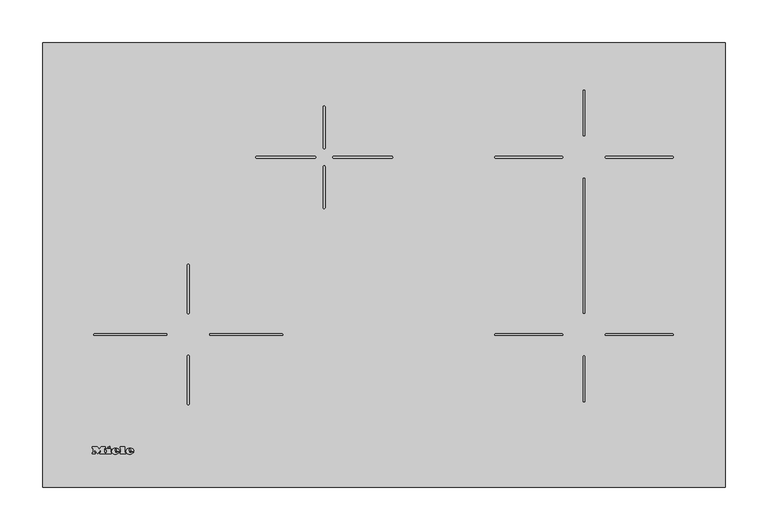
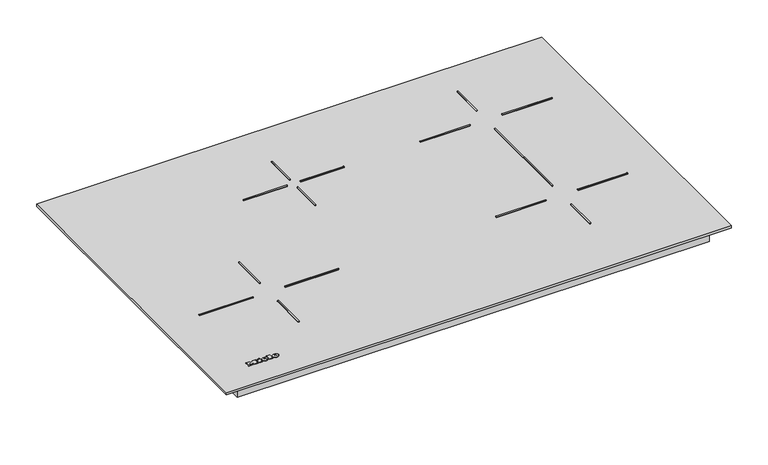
"""IFC4 building model written with IfcOpenShell, lengths in millimetres: proxy geometry, 12343070_D_KM7372FL : 26737270_D_12343070_KM7372FL."""

from ifc_helpers import new_model, si_unit, point, frame, frame_2d, origin, origin_with_axes, place, context, project, spatial, polyline, circle_curve, ellipse_curve, trimmed, segment, composite_curve, outline, extrude, source, transform, mapped, element, save
from ifc_brep_helpers import plane_surface, cylinder_surface, revolved_surface, extruded_surface, advanced_brep


def specialty_equipment_3d717bb7(model_context):
    return source(origin(), model_context, "Body", "SolidModel", [
        advanced_brep(
        [(-297.911984, 41.066, 5.0000007), (-297.911984, 41.874, 5.0000007), (-292.559984, 41.874, 5.0000007), (-301.871984, 41.874, 5.0000007), (-299.671984, 39.17, 5.0000007), (-292.695984, 41.066, 5.0000007), (-295.111984, 41.066, 5.0000007), (-297.015984, 40.17, 5.0000007), (-297.911984, 42.898, 5.0000007), (-297.911984, 43.77, 5.0000007), (-296.543984, 43.77, 5.0000007), (-296.543984, 42.898, 5.0000007), (-297.911984, 41.066, 4.0000007), (-297.015984, 40.17, 4.0000007), (-295.111984, 41.066, 4.0000007), (-292.695984, 41.066, 4.0000007), (-299.671984, 39.17, 4.0000007), (-301.871984, 41.874, 4.0000007), (-292.559984, 41.874, 4.0000007), (-297.911984, 41.874, 4.0000007), (-297.911984, 42.898, 4.0000007), (-296.543984, 42.898, 4.0000007), (-296.543984, 43.77, 4.0000007), (-297.911984, 43.77, 4.0000007)],
        [
            (0, 1),
            (1, 2),
            (2, 3, ellipse_curve(frame((-297.215984, 41.874, 5.0000007), z_axis=(0.0, 0.0, 1.0), x_axis=(-1.0, 0.0, 0.0)), 4.656, 3.848)),
            (3, 4, circle_curve(frame((-298.7759404, 42.146, 5.0000007), z_axis=(0.0, 0.0, 1.0), x_axis=(0.0, -1.0, 0.0)), 3.1079688)),
            (4, 5, circle_curve(frame((-297.3091904, 44.258, 5.0000007), z_axis=(0.0, 0.0, 1.0), x_axis=(0.0, -1.0, 0.0)), 5.6098607)),
            (5, 6),
            (6, 7, circle_curve(frame((-296.6249252, 41.81, 5.0000007), z_axis=(0.0, 0.0, -1.0), x_axis=(0.0, -1.0, 0.0)), 1.6859795)),
            (7, 0, circle_curve(frame((-297.015984, 41.066, 5.0000007), z_axis=(0.0, 0.0, -1.0), x_axis=(0.0, -1.0, 0.0)), 0.896)),
            (8, 9),
            (9, 10, circle_curve(frame((-297.227984, 43.77, 5.0000007), z_axis=(0.0, 0.0, -1.0), x_axis=(0.0, -1.0, 0.0)), 0.684)),
            (10, 11),
            (11, 8),
            (12, 13, circle_curve(frame((-297.015984, 41.066, 4.0000007), z_axis=(0.0, 0.0, 1.0), x_axis=(0.0, -1.0, 0.0)), 0.896)),
            (13, 14, circle_curve(frame((-296.6249252, 41.81, 4.0000007), z_axis=(0.0, 0.0, 1.0), x_axis=(0.0, -1.0, 0.0)), 1.6859795)),
            (14, 15),
            (15, 16, circle_curve(frame((-297.3091904, 44.258, 4.0000007), z_axis=(0.0, 0.0, -1.0), x_axis=(0.0, -1.0, 0.0)), 5.6098607)),
            (16, 17, circle_curve(frame((-298.7759404, 42.146, 4.0000007), z_axis=(0.0, 0.0, -1.0), x_axis=(0.0, -1.0, 0.0)), 3.1079688)),
            (17, 18, ellipse_curve(frame((-297.215984, 41.874, 4.0000007), z_axis=(0.0, 0.0, -1.0), x_axis=(-1.0, 0.0, 0.0)), 4.656, 3.848)),
            (18, 19),
            (19, 12),
            (20, 21),
            (21, 22),
            (22, 23, circle_curve(frame((-297.227984, 43.77, 4.0000007), z_axis=(0.0, 0.0, 1.0), x_axis=(0.0, -1.0, 0.0)), 0.684)),
            (23, 20),
            (0, 12),
            (19, 1),
            (18, 2),
            (5, 15),
            (14, 6),
            (17, 3),
            (13, 7),
            (16, 4),
            (8, 20),
            (23, 9),
            (22, 10),
            (21, 11),
        ],
        [
            plane_surface(frame((-297.911984, 41.874, 5.0000007), z_axis=(0.0, 0.0, 1.0), x_axis=(0.0, 1.0, 0.0))),
            plane_surface(frame((-297.911984, 41.874, 4.0000007), z_axis=(0.0, 0.0, -1.0), x_axis=(0.0, -1.0, 0.0))),
            plane_surface(frame((-297.911984, 41.066, 5.0000007), z_axis=(1.0, 0.0, 0.0), x_axis=(0.0, 0.0, -1.0))),
            plane_surface(frame((-297.911984, 41.874, 5.0000007), z_axis=(0.0, -1.0, 0.0), x_axis=(0.0, 0.0, -1.0))),
            plane_surface(frame((-292.695984, 41.066, 5.0000007), z_axis=(0.0, 1.0, 0.0), x_axis=(0.0, 0.0, -1.0))),
            extruded_surface(trimmed(ellipse_curve(frame((-297.215984, 41.874, 3.0000007), z_axis=(0.0, 0.0, 1.0), x_axis=(-1.0, 0.0, 0.0)), 4.656, 3.848), [point((-292.559984, 41.874, 3.0000007))], [point((-301.871984, 41.874, 3.0000007))], True, "CARTESIAN"), (0.0, 0.0, 1.0), 1.0),
            revolved_surface(polyline([(-296.6249252, 40.1240205, 4.0000007), (-296.6249252, 40.1240205, 5.0000007)]), (-296.6249252, 41.81, 4.0000007), (0.0, 0.0, -1.0)),
            revolved_surface(polyline([(-297.015984, 40.17, 4.0000007), (-297.015984, 40.17, 5.0000007)]), (-297.015984, 41.066, 4.0000007), (0.0, 0.0, -1.0)),
            cylinder_surface(frame((-298.7759404, 42.146, 4.0000007), z_axis=(0.0, 0.0, 1.0), x_axis=(0.0, -1.0, 0.0)), 3.1079688),
            cylinder_surface(frame((-297.3091904, 44.258, 4.0000007), z_axis=(0.0, 0.0, 1.0), x_axis=(0.0, -1.0, 0.0)), 5.6098607),
            plane_surface(frame((-297.911984, 42.898, 5.0000007), z_axis=(1.0, 0.0, 0.0), x_axis=(0.0, 0.0, -1.0))),
            revolved_surface(polyline([(-297.227984, 43.086000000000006, 4.0000007), (-297.227984, 43.086000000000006, 5.0000007)]), (-297.227984, 43.77, 4.0000007), (0.0, 0.0, -1.0)),
            plane_surface(frame((-296.543984, 43.77, 5.0000007), z_axis=(-1.0, 0.0, 0.0), x_axis=(0.0, 0.0, -1.0))),
            plane_surface(frame((-296.543984, 42.898, 5.0000007), z_axis=(0.0, 1.0, 0.0), x_axis=(0.0, 0.0, -1.0))),
        ],
        [
            (0, [[1, 2, 3, 4, 5, 6, 7, 8], [9, 10, 11, 12]]),
            (1, [[13, 14, 15, 16, 17, 18, 19, 20], [21, 22, 23, 24]]),
            (2, [[-1, 25, -20, 26]]),
            (3, [[-2, -26, -19, 27]]),
            (4, [[-6, 28, -15, 29]]),
            (5, [[-3, -27, -18, 30]]),
            (6, [[-7, -29, -14, 31]]),
            (7, [[-8, -31, -13, -25]]),
            (8, [[-4, -30, -17, 32]]),
            (9, [[-5, -32, -16, -28]]),
            (10, [[-9, 33, -24, 34]]),
            (11, [[-10, -34, -23, 35]]),
            (12, [[-11, -35, -22, 36]]),
            (13, [[-12, -36, -21, -33]]),
        ],
    ),
        advanced_brep(
        [(-314.607984, 41.066, 5.0000007), (-314.607984, 41.874, 5.0000007), (-309.255984, 41.874, 5.0000007), (-318.567984, 41.874, 5.0000007), (-316.367984, 39.17, 5.0000007), (-309.391984, 41.066, 5.0000007), (-311.807984, 41.066, 5.0000007), (-313.711984, 40.17, 5.0000007), (-314.607984, 42.898, 5.0000007), (-314.607984, 43.77, 5.0000007), (-313.239984, 43.77, 5.0000007), (-313.239984, 42.898, 5.0000007), (-314.607984, 41.066, 4.0000007), (-313.711984, 40.17, 4.0000007), (-311.807984, 41.066, 4.0000007), (-309.391984, 41.066, 4.0000007), (-316.367984, 39.17, 4.0000007), (-318.567984, 41.874, 4.0000007), (-309.255984, 41.874, 4.0000007), (-314.607984, 41.874, 4.0000007), (-314.607984, 42.898, 4.0000007), (-313.239984, 42.898, 4.0000007), (-313.239984, 43.77, 4.0000007), (-314.607984, 43.77, 4.0000007)],
        [
            (0, 1),
            (1, 2),
            (2, 3, ellipse_curve(frame((-313.911984, 41.874, 5.0000007), z_axis=(0.0, 0.0, 1.0), x_axis=(-1.0, 0.0, 0.0)), 4.656, 3.848)),
            (3, 4, circle_curve(frame((-315.4719404, 42.146, 5.0000007), z_axis=(0.0, 0.0, 1.0), x_axis=(0.0, -1.0, 0.0)), 3.1079688)),
            (4, 5, circle_curve(frame((-314.0051904, 44.258, 5.0000007), z_axis=(0.0, 0.0, 1.0), x_axis=(0.0, -1.0, 0.0)), 5.6098607)),
            (5, 6),
            (6, 7, circle_curve(frame((-313.3209252, 41.81, 5.0000007), z_axis=(0.0, 0.0, -1.0), x_axis=(0.0, -1.0, 0.0)), 1.6859795)),
            (7, 0, circle_curve(frame((-313.711984, 41.066, 5.0000007), z_axis=(0.0, 0.0, -1.0), x_axis=(0.0, -1.0, 0.0)), 0.896)),
            (8, 9),
            (9, 10, circle_curve(frame((-313.923984, 43.77, 5.0000007), z_axis=(0.0, 0.0, -1.0), x_axis=(0.0, -1.0, 0.0)), 0.684)),
            (10, 11),
            (11, 8),
            (12, 13, circle_curve(frame((-313.711984, 41.066, 4.0000007), z_axis=(0.0, 0.0, 1.0), x_axis=(0.0, -1.0, 0.0)), 0.896)),
            (13, 14, circle_curve(frame((-313.3209252, 41.81, 4.0000007), z_axis=(0.0, 0.0, 1.0), x_axis=(0.0, -1.0, 0.0)), 1.6859795)),
            (14, 15),
            (15, 16, circle_curve(frame((-314.0051904, 44.258, 4.0000007), z_axis=(0.0, 0.0, -1.0), x_axis=(0.0, -1.0, 0.0)), 5.6098607)),
            (16, 17, circle_curve(frame((-315.4719404, 42.146, 4.0000007), z_axis=(0.0, 0.0, -1.0), x_axis=(0.0, -1.0, 0.0)), 3.1079688)),
            (17, 18, ellipse_curve(frame((-313.911984, 41.874, 4.0000007), z_axis=(0.0, 0.0, -1.0), x_axis=(-1.0, 0.0, 0.0)), 4.656, 3.848)),
            (18, 19),
            (19, 12),
            (20, 21),
            (21, 22),
            (22, 23, circle_curve(frame((-313.923984, 43.77, 4.0000007), z_axis=(0.0, 0.0, 1.0), x_axis=(0.0, -1.0, 0.0)), 0.684)),
            (23, 20),
            (0, 12),
            (19, 1),
            (18, 2),
            (5, 15),
            (14, 6),
            (17, 3),
            (13, 7),
            (16, 4),
            (8, 20),
            (23, 9),
            (22, 10),
            (21, 11),
        ],
        [
            plane_surface(frame((-314.607984, 41.874, 5.0000007), z_axis=(0.0, 0.0, 1.0), x_axis=(0.0, 1.0, 0.0))),
            plane_surface(frame((-314.607984, 41.874, 4.0000007), z_axis=(0.0, 0.0, -1.0), x_axis=(0.0, -1.0, 0.0))),
            plane_surface(frame((-314.607984, 41.066, 5.0000007), z_axis=(1.0, 0.0, 0.0), x_axis=(0.0, 0.0, -1.0))),
            plane_surface(frame((-314.607984, 41.874, 5.0000007), z_axis=(0.0, -1.0, 0.0), x_axis=(0.0, 0.0, -1.0))),
            plane_surface(frame((-309.391984, 41.066, 5.0000007), z_axis=(0.0, 1.0, 0.0), x_axis=(0.0, 0.0, -1.0))),
            extruded_surface(trimmed(ellipse_curve(frame((-313.911984, 41.874, 3.0000007), z_axis=(0.0, 0.0, 1.0), x_axis=(-1.0, 0.0, 0.0)), 4.656, 3.848), [point((-309.255984, 41.874, 3.0000007))], [point((-318.567984, 41.874, 3.0000007))], True, "CARTESIAN"), (0.0, 0.0, 1.0), 1.0),
            revolved_surface(polyline([(-313.3209252, 40.1240205, 4.0000007), (-313.3209252, 40.1240205, 5.0000007)]), (-313.3209252, 41.81, 4.0000007), (0.0, 0.0, -1.0)),
            revolved_surface(polyline([(-313.711984, 40.17, 4.0000007), (-313.711984, 40.17, 5.0000007)]), (-313.711984, 41.066, 4.0000007), (0.0, 0.0, -1.0)),
            cylinder_surface(frame((-315.4719404, 42.146, 4.0000007), z_axis=(0.0, 0.0, 1.0), x_axis=(0.0, -1.0, 0.0)), 3.1079688),
            cylinder_surface(frame((-314.0051904, 44.258, 4.0000007), z_axis=(0.0, 0.0, 1.0), x_axis=(0.0, -1.0, 0.0)), 5.6098607),
            plane_surface(frame((-314.607984, 42.898, 5.0000007), z_axis=(1.0, 0.0, 0.0), x_axis=(0.0, 0.0, -1.0))),
            revolved_surface(polyline([(-313.923984, 43.086000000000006, 4.0000007), (-313.923984, 43.086000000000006, 5.0000007)]), (-313.923984, 43.77, 4.0000007), (0.0, 0.0, -1.0)),
            plane_surface(frame((-313.239984, 43.77, 5.0000007), z_axis=(-1.0, 0.0, 0.0), x_axis=(0.0, 0.0, -1.0))),
            plane_surface(frame((-313.239984, 42.898, 5.0000007), z_axis=(0.0, 1.0, 0.0), x_axis=(0.0, 0.0, -1.0))),
        ],
        [
            (0, [[1, 2, 3, 4, 5, 6, 7, 8], [9, 10, 11, 12]]),
            (1, [[13, 14, 15, 16, 17, 18, 19, 20], [21, 22, 23, 24]]),
            (2, [[-1, 25, -20, 26]]),
            (3, [[-2, -26, -19, 27]]),
            (4, [[-6, 28, -15, 29]]),
            (5, [[-3, -27, -18, 30]]),
            (6, [[-7, -29, -14, 31]]),
            (7, [[-8, -31, -13, -25]]),
            (8, [[-4, -30, -17, 32]]),
            (9, [[-5, -32, -16, -28]]),
            (10, [[-9, 33, -24, 34]]),
            (11, [[-10, -34, -23, 35]]),
            (12, [[-11, -35, -22, 36]]),
            (13, [[-12, -36, -21, -33]]),
        ],
    ),
        extrude(outline(polyline([(-323.351984, 46.698), (-320.631984, 47.962), (-320.031984, 46.666), (-322.743984, 45.402), (-323.351984, 46.698)])), frame((0.0, 0.0, 4.0000007), z_axis=(0.0, 0.0, 1.0), x_axis=(1.0, 0.0, 0.0)), (0.0, 0.0, 1.0), 1.0),
        extrude(outline(polyline([(-325.327984, 45.226), (-319.943984, 45.226), (-319.943984, 40.514), (-319.015984, 40.514), (-319.015984, 39.17), (-325.327984, 39.17), (-325.327984, 40.514), (-324.375984, 40.514), (-324.375984, 43.794), (-325.327984, 43.794), (-325.327984, 45.226)])), frame((0.0, 0.0, 4.0000007), z_axis=(0.0, 0.0, 1.0), x_axis=(1.0, 0.0, 0.0)), (0.0, 0.0, 1.0), 1.0),
        extrude(outline(polyline([(-308.807984, 45.866), (-308.807984, 47.17), (-303.303984, 47.17), (-303.303984, 40.514), (-302.319984, 40.514), (-302.319984, 39.17), (-308.807984, 39.17), (-308.807984, 40.514), (-307.847984, 40.514), (-307.847984, 45.866), (-308.807984, 45.866)])), frame((0.0, 0.0, 4.0000007), z_axis=(0.0, 0.0, 1.0), x_axis=(1.0, 0.0, 0.0)), (0.0, 0.0, 1.0), 1.0),
        extrude(outline(polyline([(-341.271984, 45.866), (-341.271984, 47.17), (-335.695984, 47.17), (-333.351984, 44.17), (-331.015984, 47.17), (-326.143984, 47.17), (-326.143984, 45.866), (-327.159984, 45.866), (-327.159984, 40.514), (-326.143984, 40.514), (-326.143984, 39.17), (-332.527984, 39.17), (-332.527984, 40.514), (-331.543984, 40.514), (-331.543984, 43.9852223), (-335.135984, 39.17), (-338.711984, 43.9171247), (-338.711984, 40.514), (-337.751984, 40.514), (-337.751984, 39.17), (-341.271984, 39.17), (-341.271984, 40.514), (-340.303984, 40.514), (-340.303984, 45.866), (-341.271984, 45.866)])), frame((0.0, 0.0, 4.0000007), z_axis=(0.0, 0.0, 1.0), x_axis=(1.0, 0.0, 0.0)), (0.0, 0.0, 1.0), 1.0),
        extrude(outline(composite_curve([segment(polyline([(-69.0, 375.0), (-69.0, 327.0)]), True, "CONTINUOUS"), segment(trimmed(circle_curve(frame_2d((-70.0, 327.0)), 1.0), [point((-69.0, 327.0))], [point((-71.0, 327.0))], False, "CARTESIAN"), True, "CONTINUOUS"), segment(polyline([(-71.0, 327.0), (-71.0, 375.0)]), True, "CONTINUOUS"), segment(trimmed(circle_curve(frame_2d((-70.0, 375.0)), 1.0), [point((-71.0, 375.0))], [point((-69.0, 375.0))], False, "CARTESIAN"), True, "CONTINUOUS")], self_intersect=False)), frame((0.0, 0.0, 4.0000007), z_axis=(0.0, 0.0, 1.0), x_axis=(1.0, 0.0, 0.0)), (0.0, 0.0, 1.0), 1.0),
        extrude(outline(composite_curve([segment(trimmed(circle_curve(frame_2d((-59.0, 386.0)), 1.0), [point((-59.0, 385.0))], [point((-59.0, 387.0))], False, "CARTESIAN"), True, "CONTINUOUS"), segment(polyline([(-59.0, 387.0), (9.0, 387.0)]), True, "CONTINUOUS"), segment(trimmed(circle_curve(frame_2d((9.0, 386.0)), 1.0), [point((9.0, 387.0))], [point((9.0, 385.0))], False, "CARTESIAN"), True, "CONTINUOUS"), segment(polyline([(9.0, 385.0), (-59.0, 385.0)]), True, "CONTINUOUS")], self_intersect=False)), frame((0.0, 0.0, 4.0000007), z_axis=(0.0, 0.0, 1.0), x_axis=(1.0, 0.0, 0.0)), (0.0, 0.0, 1.0), 1.0),
        extrude(outline(composite_curve([segment(polyline([(-228.0, 153.2492439), (-228.0, 97.2492439)]), True, "CONTINUOUS"), segment(trimmed(circle_curve(frame_2d((-229.0, 97.2492439)), 1.0), [point((-228.0, 97.2492439))], [point((-230.0, 97.2492439))], False, "CARTESIAN"), True, "CONTINUOUS"), segment(polyline([(-230.0, 97.2492439), (-230.0, 153.2492439)]), True, "CONTINUOUS"), segment(trimmed(circle_curve(frame_2d((-229.0, 153.2492439)), 1.0), [point((-230.0, 153.2492439))], [point((-228.0, 153.2492439))], False, "CARTESIAN"), True, "CONTINUOUS")], self_intersect=False)), frame((0.0, 0.0, 4.0000007), z_axis=(0.0, 0.0, 1.0), x_axis=(1.0, 0.0, 0.0)), (0.0, 0.0, 1.0), 1.0),
        extrude(outline(composite_curve([segment(trimmed(circle_curve(frame_2d((-203.0, 178.5)), 1.0), [point((-203.0, 177.5))], [point((-203.0, 179.5))], False, "CARTESIAN"), True, "CONTINUOUS"), segment(polyline([(-203.0, 179.5), (-119.5, 179.5)]), True, "CONTINUOUS"), segment(trimmed(circle_curve(frame_2d((-119.5, 178.5)), 1.0), [point((-119.5, 179.5))], [point((-119.5, 177.5))], False, "CARTESIAN"), True, "CONTINUOUS"), segment(polyline([(-119.5, 177.5), (-203.0, 177.5)]), True, "CONTINUOUS")], self_intersect=False)), frame((0.0, 0.0, 4.0000007), z_axis=(0.0, 0.0, 1.0), x_axis=(1.0, 0.0, 0.0)), (0.0, 0.0, 1.0), 1.0),
        extrude(outline(composite_curve([segment(polyline([(233.0, 204.5123919), (233.0, 360.739463)]), True, "CONTINUOUS"), segment(trimmed(circle_curve(frame_2d((234.0, 360.739463)), 1.0), [point((233.0, 360.739463))], [point((235.0, 360.739463))], False, "CARTESIAN"), True, "CONTINUOUS"), segment(polyline([(235.0, 360.739463), (235.0, 204.5123919)]), True, "CONTINUOUS"), segment(trimmed(circle_curve(frame_2d((234.0, 204.5123919)), 1.0), [point((235.0, 204.5123919))], [point((233.0, 204.5123919))], False, "CARTESIAN"), True, "CONTINUOUS")], self_intersect=False)), frame((0.0, 0.0, 4.0000007), z_axis=(0.0, 0.0, 1.0), x_axis=(1.0, 0.0, 0.0)), (0.0, 0.0, 1.0), 1.0),
        extrude(outline(composite_curve([segment(trimmed(circle_curve(frame_2d((234.0, 152.520008)), 1.0), [point((233.0, 152.520008))], [point((235.0, 152.520008))], False, "CARTESIAN"), True, "CONTINUOUS"), segment(polyline([(235.0, 152.520008), (235.0, 100.9135338)]), True, "CONTINUOUS"), segment(trimmed(circle_curve(frame_2d((234.0, 100.9135338)), 1.0), [point((235.0, 100.9135338))], [point((233.0, 100.9135338))], False, "CARTESIAN"), True, "CONTINUOUS"), segment(polyline([(233.0, 100.9135338), (233.0, 152.520008)]), True, "CONTINUOUS")], self_intersect=False)), frame((0.0, 0.0, 4.0000007), z_axis=(0.0, 0.0, 1.0), x_axis=(1.0, 0.0, 0.0)), (0.0, 0.0, 1.0), 1.0),
        extrude(outline(composite_curve([segment(trimmed(circle_curve(frame_2d((234.0, 411.979992)), 1.0), [point((235.0, 411.979992))], [point((233.0, 411.979992))], False, "CARTESIAN"), True, "CONTINUOUS"), segment(polyline([(233.0, 411.979992), (233.0, 463.401697)]), True, "CONTINUOUS"), segment(trimmed(circle_curve(frame_2d((234.0, 463.401697)), 1.0), [point((233.0, 463.401697))], [point((235.0, 463.401697))], False, "CARTESIAN"), True, "CONTINUOUS"), segment(polyline([(235.0, 463.401697), (235.0, 411.979992)]), True, "CONTINUOUS")], self_intersect=False)), frame((0.0, 0.0, 4.0000007), z_axis=(0.0, 0.0, 1.0), x_axis=(1.0, 0.0, 0.0)), (0.0, 0.0, 1.0), 1.0),
        extrude(outline(composite_curve([segment(trimmed(circle_curve(frame_2d((259.979992, 386.0)), 1.0), [point((259.979992, 385.0))], [point((259.979992, 387.0))], False, "CARTESIAN"), True, "CONTINUOUS"), segment(polyline([(259.979992, 387.0), (337.401697, 387.0)]), True, "CONTINUOUS"), segment(trimmed(circle_curve(frame_2d((337.401697, 386.0)), 1.0), [point((337.401697, 387.0))], [point((337.401697, 385.0))], False, "CARTESIAN"), True, "CONTINUOUS"), segment(polyline([(337.401697, 385.0), (259.979992, 385.0)]), True, "CONTINUOUS")], self_intersect=False)), frame((0.0, 0.0, 4.0000007), z_axis=(0.0, 0.0, 1.0), x_axis=(1.0, 0.0, 0.0)), (0.0, 0.0, 1.0), 1.0),
        extrude(outline(composite_curve([segment(polyline([(208.020008, 385.0), (130.598303, 385.0)]), True, "CONTINUOUS"), segment(trimmed(circle_curve(frame_2d((130.598303, 386.0)), 1.0), [point((130.598303, 385.0))], [point((130.598303, 387.0))], False, "CARTESIAN"), True, "CONTINUOUS"), segment(polyline([(130.598303, 387.0), (208.020008, 387.0)]), True, "CONTINUOUS"), segment(trimmed(circle_curve(frame_2d((208.020008, 386.0)), 1.0), [point((208.020008, 387.0))], [point((208.020008, 385.0))], False, "CARTESIAN"), True, "CONTINUOUS")], self_intersect=False)), frame((0.0, 0.0, 4.0000007), z_axis=(0.0, 0.0, 1.0), x_axis=(1.0, 0.0, 0.0)), (0.0, 0.0, 1.0), 1.0),
        extrude(outline(composite_curve([segment(trimmed(circle_curve(frame_2d((259.979992, 178.5)), 1.0), [point((259.979992, 177.5))], [point((259.979992, 179.5))], False, "CARTESIAN"), True, "CONTINUOUS"), segment(polyline([(259.979992, 179.5), (337.401697, 179.5)]), True, "CONTINUOUS"), segment(trimmed(circle_curve(frame_2d((337.401697, 178.5)), 1.0), [point((337.401697, 179.5))], [point((337.401697, 177.5))], False, "CARTESIAN"), True, "CONTINUOUS"), segment(polyline([(337.401697, 177.5), (259.979992, 177.5)]), True, "CONTINUOUS")], self_intersect=False)), frame((0.0, 0.0, 4.0000007), z_axis=(0.0, 0.0, 1.0), x_axis=(1.0, 0.0, 0.0)), (0.0, 0.0, 1.0), 1.0),
        extrude(outline(composite_curve([segment(polyline([(208.020008, 177.5), (130.598303, 177.5)]), True, "CONTINUOUS"), segment(trimmed(circle_curve(frame_2d((130.598303, 178.5)), 1.0), [point((130.598303, 177.5))], [point((130.598303, 179.5))], False, "CARTESIAN"), True, "CONTINUOUS"), segment(polyline([(130.598303, 179.5), (208.020008, 179.5)]), True, "CONTINUOUS"), segment(trimmed(circle_curve(frame_2d((208.020008, 178.5)), 1.0), [point((208.020008, 179.5))], [point((208.020008, 177.5))], False, "CARTESIAN"), True, "CONTINUOUS")], self_intersect=False)), frame((0.0, 0.0, 4.0000007), z_axis=(0.0, 0.0, 1.0), x_axis=(1.0, 0.0, 0.0)), (0.0, 0.0, 1.0), 1.0),
        extrude(outline(composite_curve([segment(polyline([(-255.0, 177.5), (-338.5, 177.5)]), True, "CONTINUOUS"), segment(trimmed(circle_curve(frame_2d((-338.5, 178.5)), 1.0), [point((-338.5, 177.5))], [point((-338.5, 179.5))], False, "CARTESIAN"), True, "CONTINUOUS"), segment(polyline([(-338.5, 179.5), (-255.0, 179.5)]), True, "CONTINUOUS"), segment(trimmed(circle_curve(frame_2d((-255.0, 178.5)), 1.0), [point((-255.0, 179.5))], [point((-255.0, 177.5))], False, "CARTESIAN"), True, "CONTINUOUS")], self_intersect=False)), frame((0.0, 0.0, 4.0000007), z_axis=(0.0, 0.0, 1.0), x_axis=(1.0, 0.0, 0.0)), (0.0, 0.0, 1.0), 1.0),
        extrude(outline(composite_curve([segment(trimmed(circle_curve(frame_2d((-229.0, 203.7507561)), 1.0), [point((-228.0, 203.7507561))], [point((-230.0, 203.7507561))], False, "CARTESIAN"), True, "CONTINUOUS"), segment(polyline([(-230.0, 203.7507561), (-230.0, 259.7507561)]), True, "CONTINUOUS"), segment(trimmed(circle_curve(frame_2d((-229.0, 259.7507561)), 1.0), [point((-230.0, 259.7507561))], [point((-228.0, 259.7507561))], False, "CARTESIAN"), True, "CONTINUOUS"), segment(polyline([(-228.0, 259.7507561), (-228.0, 203.7507561)]), True, "CONTINUOUS")], self_intersect=False)), frame((0.0, 0.0, 4.0000007), z_axis=(0.0, 0.0, 1.0), x_axis=(1.0, 0.0, 0.0)), (0.0, 0.0, 1.0), 1.0),
        extrude(outline(composite_curve([segment(trimmed(circle_curve(frame_2d((-70.0, 397.0)), 1.0), [point((-69.0, 397.0))], [point((-71.0, 397.0))], False, "CARTESIAN"), True, "CONTINUOUS"), segment(polyline([(-71.0, 397.0), (-71.0, 445.0)]), True, "CONTINUOUS"), segment(trimmed(circle_curve(frame_2d((-70.0, 445.0)), 1.0), [point((-71.0, 445.0))], [point((-69.0, 445.0))], False, "CARTESIAN"), True, "CONTINUOUS"), segment(polyline([(-69.0, 445.0), (-69.0, 397.0)]), True, "CONTINUOUS")], self_intersect=False)), frame((0.0, 0.0, 4.0000007), z_axis=(0.0, 0.0, 1.0), x_axis=(1.0, 0.0, 0.0)), (0.0, 0.0, 1.0), 1.0),
        extrude(outline(composite_curve([segment(polyline([(-81.0, 385.0), (-149.0, 385.0)]), True, "CONTINUOUS"), segment(trimmed(circle_curve(frame_2d((-149.0, 386.0)), 1.0), [point((-149.0, 385.0))], [point((-149.0, 387.0))], False, "CARTESIAN"), True, "CONTINUOUS"), segment(polyline([(-149.0, 387.0), (-81.0, 387.0)]), True, "CONTINUOUS"), segment(trimmed(circle_curve(frame_2d((-81.0, 386.0)), 1.0), [point((-81.0, 387.0))], [point((-81.0, 385.0))], False, "CARTESIAN"), True, "CONTINUOUS")], self_intersect=False)), frame((0.0, 0.0, 4.0000007), z_axis=(0.0, 0.0, 1.0), x_axis=(1.0, 0.0, 0.0)), (0.0, 0.0, 1.0), 1.0),
        extrude(outline(polyline([(231.7938197, 480.0), (231.7938197, 362.7202614), (234.0, 362.7202614), (234.0, 76.0), (-64.0, 76.0), (-64.0, 480.0), (231.7938197, 480.0)])), frame((0.0, 0.0, -49.1723575), z_axis=(0.0, 0.0, 1.0), x_axis=(1.0, 0.0, 0.0)), (0.0, 0.0, 1.0), 26.1723575),
        extrude(outline(polyline([(373.0, 504.0), (373.0, 16.0), (-373.0, 16.0), (-373.0, 504.0), (373.0, 504.0)])), frame((0.0, 0.0, -23.0), z_axis=(0.0, 0.0, 1.0), x_axis=(1.0, 0.0, 0.0)), (0.0, 0.0, 1.0), 23.0),
        extrude(outline(polyline([(399.25, 520.0), (399.25, 0.0), (-399.25, 0.0), (-399.25, 520.0), (399.25, 520.0)])), origin_with_axes(), (0.0, 0.0, 1.0), 4.0000007),
        extrude(outline(polyline([(234.6227397, 383.1708126), (242.0, 383.1708126), (242.0, 381.9151088), (235.8784436, 381.9151088), (235.8784436, 378.6188861), (241.529111, 378.6188861), (241.529111, 377.3631822), (235.8784436, 377.3631822), (235.8784436, 374.3808855), (241.843037, 374.3808855), (241.843037, 373.1251816), (234.6227397, 373.1251816), (234.6227397, 383.1708126)])), frame((0.0, 0.0, -55.9814925), z_axis=(0.0, 0.0, 1.0), x_axis=(1.0, 0.0, 0.0)), (0.0, 0.0, 1.0), 1.0),
        extrude(outline(polyline([(243.8835558, 383.1708126), (250.1620752, 383.1708126), (250.1620752, 381.9151088), (245.1392597, 381.9151088), (245.1392597, 373.1251816), (243.8835558, 373.1251816), (243.8835558, 383.1708126)])), frame((0.0, 0.0, -55.9814925), z_axis=(0.0, 0.0, 1.0), x_axis=(1.0, 0.0, 0.0)), (0.0, 0.0, 1.0), 1.0),
        advanced_brep(
        [(219.0, 378.1708126, -42.9814925), (219.0, 378.1708126, -26.9814925), (233.7476293, 378.1708126, -42.9814925), (249.7476293, 378.1708126, -26.9814925), (233.7476293, 378.1708126, -54.9814925), (249.7476293, 378.1708126, -54.9814925)],
        [
            (0, 1, circle_curve(frame((219.0, 378.1708126, -34.9814925), z_axis=(-1.0, 0.0, 0.0), x_axis=(0.0, 0.0, 1.0)), 8.0)),
            (1, 0, circle_curve(frame((219.0, 378.1708126, -34.9814925), z_axis=(-1.0, 0.0, 0.0), x_axis=(0.0, 0.0, 1.0)), 8.0)),
            (0, 2),
            (2, 3, ellipse_curve(frame((241.7476293, 378.1708126, -34.9814925), z_axis=(-0.7071067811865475, 0.0, 0.7071067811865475), x_axis=(-0.7071067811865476, 0.0, -0.7071067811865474)), 11.3137085, 8.0)),
            (3, 1),
            (3, 2, ellipse_curve(frame((241.7476293, 378.1708126, -34.9814925), z_axis=(-0.7071067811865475, 0.0, 0.7071067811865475), x_axis=(-0.7071067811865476, 0.0, -0.7071067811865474)), 11.3137085, 8.0)),
            (4, 5, circle_curve(frame((241.7476293, 378.1708126, -54.9814925), z_axis=(0.0, 0.0, -1.0), x_axis=(1.0, 0.0, 0.0)), 8.0)),
            (5, 4, circle_curve(frame((241.7476293, 378.1708126, -54.9814925), z_axis=(0.0, 0.0, -1.0), x_axis=(1.0, 0.0, 0.0)), 8.0)),
            (2, 4),
            (5, 3),
        ],
        [
            plane_surface(frame((219.0, 0.0, -34.9814925), z_axis=(-1.0, 0.0, 0.0), x_axis=(0.0, -1.0, 0.0))),
            cylinder_surface(frame((219.0, 378.1708126, -34.9814925), z_axis=(-1.0, 0.0, 0.0), x_axis=(0.0, 0.0, 1.0)), 8.0),
            plane_surface(frame((241.7476293, 0.0, -54.9814925), z_axis=(0.0, 0.0, -1.0), x_axis=(0.0, -1.0, 0.0))),
            cylinder_surface(frame((241.7476293, 378.1708126, -34.9814925), z_axis=(0.0, 0.0, 1.0), x_axis=(1.0, 0.0, 0.0)), 8.0),
        ],
        [
            (0, [[1, 2]]),
            (1, [[-1, 3, 4, 5]]),
            (1, [[-2, -5, 6, -3]]),
            (2, [[7, 8]]),
            (3, [[-4, 9, -8, 10]]),
            (3, [[-6, -10, -7, -9]]),
        ],
    ),
    ])


if __name__ == "__main__":
    model = new_model("IFC4")
    model_context = context("Model", 3, world=origin())
    ifc_project = project(units=[si_unit("LENGTHUNIT", "METRE", prefix="MILLI")], contexts=[model_context])
    site = spatial("IfcSite", under=ifc_project)
    building = spatial("IfcBuilding", under=site)
    placement = place(None, origin())
    specialty_equipment_shape = specialty_equipment_3d717bb7(model_context)
    element("IfcBuildingElementProxy", 1, Name="12343070_D_KM7372FL : 26737270_D_12343070_KM7372FL", ObjectType="12343070_D_KM7372FL : 26737270_D_12343070_KM7372FL", at=placement, inside=building, context=model_context, shape_type="MappedRepresentation", body=[
        mapped(specialty_equipment_shape, transform((0.0, 0.0, 0.0), x_axis=(1.0, 0.0, 0.0), y_axis=(0.0, 1.0, 0.0), z_axis=(0.0, 0.0, 1.0))),
    ])
    save(model, "model.ifc")
